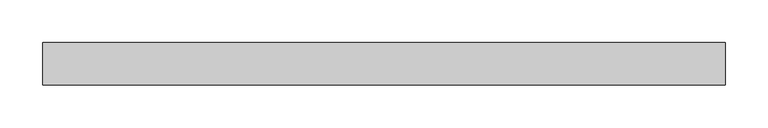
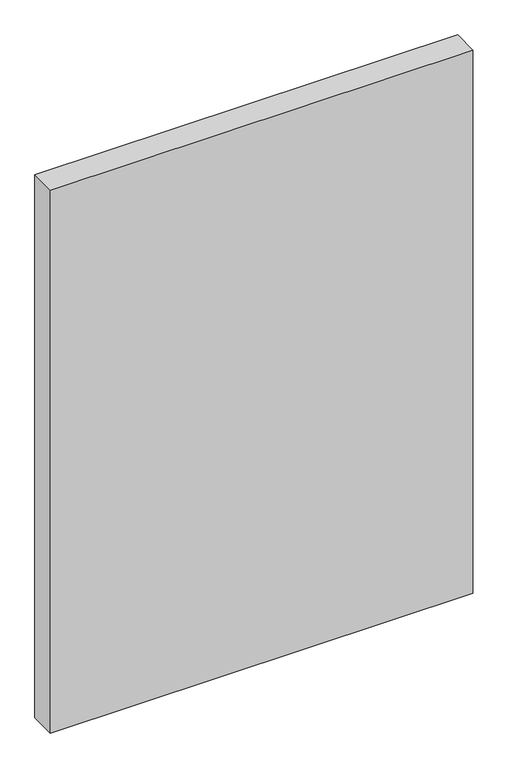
"""IFC4 building model written with IfcOpenShell, lengths in millimetres: plate geometry, Системная панель : Стекло(50мм)."""

from ifc_helpers import new_model, si_unit, origin, origin_with_axes, place, context, project, spatial, polyline, outline, extrude, source, transform, mapped, element, save


def plate_a8ff62f7(model_context):
    return source(origin(), model_context, "Body", "SweptSolid", [
        extrude(outline(polyline([(399.4474027, -25.0), (-399.4474027, -25.0), (-399.4474027, 25.0), (399.4474027, 25.0), (399.4474027, -25.0)])), origin_with_axes(), (0.0, 0.0, 1.0), 1085.0),
    ])


if __name__ == "__main__":
    model = new_model("IFC4")
    model_context = context("Model", 3, world=origin())
    ifc_project = project(units=[si_unit("LENGTHUNIT", "METRE", prefix="MILLI")], contexts=[model_context])
    site = spatial("IfcSite", under=ifc_project)
    building = spatial("IfcBuilding", under=site)
    placement = place(None, origin())
    plate_shape = plate_a8ff62f7(model_context)
    element("IfcPlate", 1, ObjectType="Системная панель : Стекло(50мм)", at=placement, inside=building, context=model_context, shape_type="MappedRepresentation", body=[
        mapped(plate_shape, transform((0.0, 0.0, 0.0), x_axis=(1.0, 0.0, 0.0), y_axis=(0.0, 1.0, 0.0), z_axis=(0.0, 0.0, 1.0))),
    ])
    save(model, "model.ifc")
